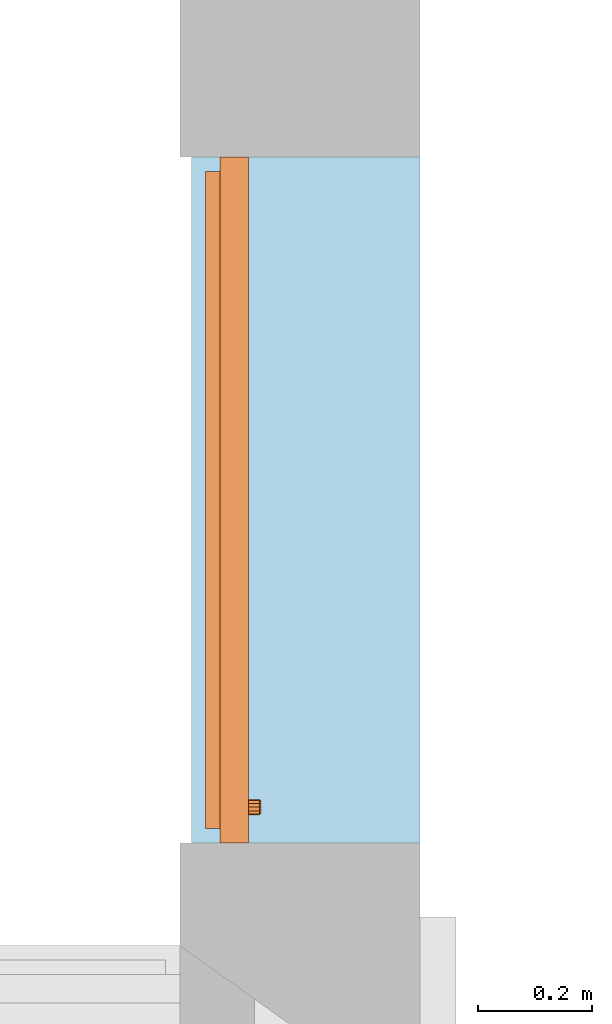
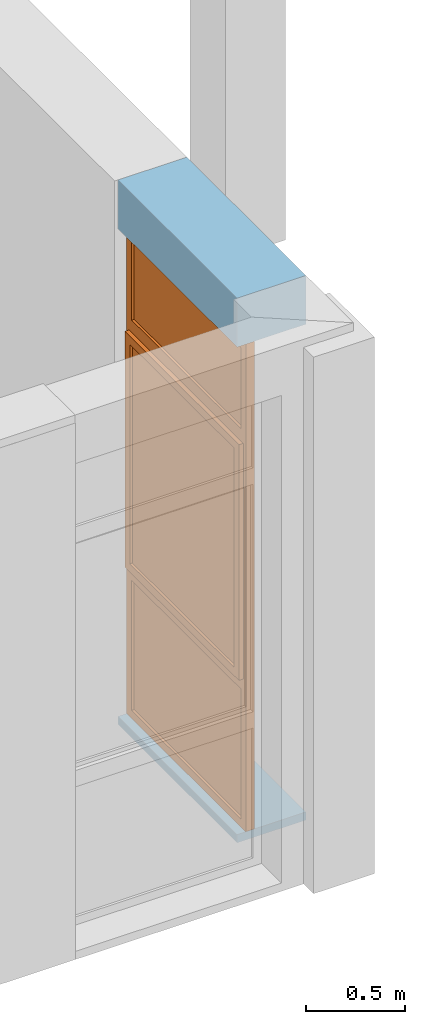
# One storey, part 10 of 11: 1 proxy, 1 opening, plus 1 element that does not belong to this part.
"""IFC2X3 building model written with IfcOpenShell, lengths in millimetres."""

from ifc_helpers import new_model, entity, si_unit, converted_unit, derived_unit, money_unit, direction, frame, origin_with_axes, origin_2d_with_axis, place, context, subcontext, project, spatial, polyline, rectangle, outline, extrude, open_shell, faceted_brep, surface_model, material, layer, layer_set, layer_usage, type_object, element, fill, save


model = new_model("IFC2X3")

# Units and contexts
model_context = context("Model", 3, precision=0.01, world=origin_with_axes(), true_north=direction((0.0, 1.0)))
body_context = subcontext(model_context, "Body", "Model", "MODEL_VIEW")
ifc_project = project(units=[si_unit("LENGTHUNIT", "METRE", prefix="MILLI"), si_unit("AREAUNIT", "SQUARE_METRE"), si_unit("VOLUMEUNIT", "CUBIC_METRE"), converted_unit("PLANEANGLEUNIT", "DEGREE", entity("IfcPlaneAngleMeasure", 0.0174532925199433), si_unit("PLANEANGLEUNIT", "RADIAN"), dimensions=[0, 0, 0, 0, 0, 0, 0]), money_unit("USD"), converted_unit("TIMEUNIT", "Year", entity("IfcTimeMeasure", 31557600.0), si_unit("TIMEUNIT", "SECOND"), dimensions=[0, 0, 1, 0, 0, 0, 0]), si_unit("MASSUNIT", "GRAM", prefix="KILO"), si_unit("THERMODYNAMICTEMPERATUREUNIT", "DEGREE_CELSIUS"), si_unit("LUMINOUSINTENSITYUNIT", "LUMEN"), si_unit("ENERGYUNIT", "JOULE", prefix="MEGA"), derived_unit("THERMALCONDUCTANCEUNIT", [(si_unit("POWERUNIT", "WATT"), 1), (si_unit("LENGTHUNIT", "METRE"), -1), (si_unit("THERMODYNAMICTEMPERATUREUNIT", "KELVIN"), -1)]), derived_unit("SPECIFICHEATCAPACITYUNIT", [(si_unit("ENERGYUNIT", "JOULE"), 1), (si_unit("MASSUNIT", "GRAM", prefix="KILO"), -1), (si_unit("THERMODYNAMICTEMPERATUREUNIT", "KELVIN"), -1)]), derived_unit("MASSDENSITYUNIT", [(si_unit("MASSUNIT", "GRAM", prefix="KILO"), 1), (si_unit("VOLUMEUNIT", "CUBIC_METRE"), -1)])], contexts=[model_context])

# Site, building, storey
site_placement = place(None, origin_with_axes())
site = spatial("IfcSite", under=ifc_project, at=site_placement, Name="Sitio", CompositionType="ELEMENT")
building_placement = place(site_placement, origin_with_axes())
building = spatial("IfcBuilding", under=site, at=building_placement, Name="Construcción", CompositionType="ELEMENT")
storey_placement = place(building_placement, frame((0.0, 0.0, -3650.0), z_axis=(0.0, 0.0, 1.0), x_axis=(1.0, 0.0, 0.0)))
storey = spatial("IfcBuildingStorey", under=building, at=storey_placement, Name="-1. Piso", CompositionType="ELEMENT", Elevation=-3650.0)

# Wall, opening, proxy
ifc_material_1 = material(Name="ARQ_AM246_Arrebossat_De_Guix")
ifc_layer_1 = layer(ifc_material_1, 10.0, ventilated="UNKNOWN")
ifc_material_2 = material(Name="ARQ_CE217_Gero")
ifc_layer_2 = layer(ifc_material_2, 150.0, ventilated="UNKNOWN")
ifc_material_3 = material(Name="ARQ_AI031_Aillament_Poliestireno expandido EPS")
ifc_layer_3 = layer(ifc_material_3, 150.0, ventilated="UNKNOWN")
ifc_material_4 = material(Name="ARQ_CE218_Ceramic")
ifc_layer_4 = layer(ifc_material_4, 80.0, ventilated="UNKNOWN")
ifc_layer_5 = layer(ifc_material_1, 10.0, ventilated="UNKNOWN")
ifc_layer_set = layer_set([ifc_layer_1, ifc_layer_2, ifc_layer_3, ifc_layer_4, ifc_layer_5], Name="façana pati CR1 (ampit)")
ifc_layer_usage = layer_usage(ifc_layer_set, "AXIS2", "POSITIVE", -400.0)
wall_type = type_object("IfcWallType", Name="façana pati CR1 (ampit) 400", PredefinedType="NOTDEFINED")
wall_placement = place(storey_placement, frame((-1681.109004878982, -10658.9758237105, 0.0), z_axis=(0.0, 0.0, 1.0), x_axis=(0.0, -1.0, 0.0)))
wall = element("IfcWallStandardCase", 1, at=wall_placement, inside=storey, type_object=wall_type, material=ifc_layer_usage, Name="MS-199", context=body_context, shape_type="SweptSolid", body=[
    extrude(outline(polyline([(0.0, -399.9999999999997), (1199.999999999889, -400.0000000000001), (1199.999999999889, 0.0), (0.0, 0.0), (0.0, -399.9999999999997)])), origin_with_axes(), (0.0, 0.0, 1.0), 3350.0),
])
opening_placement = place(wall_placement, frame((599.9999999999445, 0.0, 49.99999999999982), z_axis=(0.0, 0.0, 1.0), x_axis=(1.0, 0.0, 0.0)))
opening = element("IfcOpeningElement", 2, at=opening_placement, cuts=wall, Name="V - 008", context=body_context, shape_type="SweptSolid", body=[
    extrude(rectangle(XDim=1199.999999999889, YDim=3000.0, at=origin_2d_with_axis()), frame((0.0, -350.0000000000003, 1500.0), z_axis=(0.0, -1.0, 0.0), x_axis=(-1.0, 0.0, 0.0)), (0.0, 0.0, -1.0), 750.0),
    extrude(rectangle(XDim=1199.999999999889, YDim=3000.0, at=origin_2d_with_axis()), frame((0.0, -350.0000000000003, 1500.0), z_axis=(0.0, 1.0, 0.0), x_axis=(-1.0, 0.0, 0.0)), (0.0, 0.0, -1.0), 450.0),
])
building_element_proxy_type = type_object("IfcBuildingElementProxyType", Name="Ventana Vertical Multi-Faja 27", PredefinedType="NOTDEFINED")
proxy_placement = place(opening_placement, frame((599.9999999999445, 0.0, 0.0), z_axis=(0.0, 0.0, 1.0), x_axis=(-1.0, 0.0, 0.0)))
proxy = element("IfcBuildingElementProxy", 3, at=proxy_placement, inside=storey, type_object=building_element_proxy_type, Name="V - 008", context=body_context, shape_type="SurfaceModel", body=[
    faceted_brep([(25.00000000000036, 350.0000000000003, 925.0000000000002), (49.99999999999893, 350.0000000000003, 925.0000000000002), (49.99999999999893, 350.0000000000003, 850.0000000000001), (49.99999999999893, 350.0000000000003, 50.00000000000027), (0.0, 350.0000000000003, 50.00000000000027), (0.0, 349.9999999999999, 2950.0), (49.99999999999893, 349.9999999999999, 2950.0), (49.99999999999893, 349.9999999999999, 2450.0), (49.99999999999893, 349.9999999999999, 2375.0), (25.00000000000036, 349.9999999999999, 2375.0), (25.00000000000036, 325.0000000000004, 925.0000000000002), (49.99999999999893, 325.0000000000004, 925.0000000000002), (49.99999999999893, 325.0000000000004, 950.0000000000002), (49.99999999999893, 300.0000000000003, 950.0000000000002), (49.99999999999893, 300.0000000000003, 850.0000000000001), (49.99999999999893, 300.0000000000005, 50.00000000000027), (0.0, 300.0000000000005, 50.00000000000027), (0.0, 300.0000000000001, 2950.0), (49.99999999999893, 300.0000000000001, 2950.0), (49.99999999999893, 300.0000000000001, 2450.0), (49.99999999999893, 324.9999999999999, 2375.0), (49.99999999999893, 300.0000000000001, 2350.0), (49.99999999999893, 324.9999999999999, 2350.0), (25.00000000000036, 324.9999999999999, 2375.0)], [[[0, 1, 2, 3, 4, 5, 6, 7, 8, 9]], [[0, 10, 11, 1]], [[11, 12, 13, 14, 2, 1]], [[3, 2, 14, 15]], [[4, 3, 15, 16]], [[5, 4, 16, 17]], [[6, 5, 17, 18]], [[7, 6, 18, 19]], [[20, 8, 7, 19, 21, 22]], [[20, 23, 9, 8]], [[9, 23, 10, 0]], [[22, 12, 11, 10, 23, 20]], [[22, 21, 13, 12]], [[17, 16, 15, 14, 13, 21, 19, 18]]]),
    faceted_brep([(1174.999999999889, 349.9999999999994, 925.0000000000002), (1174.999999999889, 349.9999999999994, 2375.0), (1149.99999999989, 349.9999999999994, 2375.0), (1149.99999999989, 349.9999999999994, 2450.0), (1149.99999999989, 349.999999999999, 2950.0), (1199.999999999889, 349.999999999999, 2950.0), (1199.999999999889, 349.9999999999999, 50.00000000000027), (1149.99999999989, 349.9999999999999, 50.00000000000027), (1149.99999999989, 349.9999999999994, 850.0000000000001), (1149.99999999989, 349.9999999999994, 925.0000000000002), (1174.999999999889, 324.9999999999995, 925.0000000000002), (1174.999999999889, 324.9999999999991, 2375.0), (1149.99999999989, 324.9999999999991, 2375.0), (1149.99999999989, 324.9999999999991, 2350.0), (1149.99999999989, 299.9999999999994, 2350.0), (1149.99999999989, 299.9999999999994, 2450.0), (1149.99999999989, 299.9999999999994, 2950.0), (1199.999999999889, 299.9999999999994, 2950.0), (1199.999999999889, 299.9999999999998, 50.00000000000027), (1149.99999999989, 299.9999999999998, 50.00000000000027), (1149.99999999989, 299.9999999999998, 850.0000000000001), (1149.99999999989, 324.9999999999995, 925.0000000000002), (1149.99999999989, 299.9999999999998, 950.0000000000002), (1149.99999999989, 324.9999999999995, 950.0000000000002)], [[[0, 1, 2, 3, 4, 5, 6, 7, 8, 9]], [[0, 10, 11, 1]], [[1, 11, 12, 2]], [[12, 13, 14, 15, 3, 2]], [[4, 3, 15, 16]], [[5, 4, 16, 17]], [[6, 5, 17, 18]], [[7, 6, 18, 19]], [[8, 7, 19, 20]], [[21, 9, 8, 20, 22, 23]], [[9, 21, 10, 0]], [[12, 11, 10, 21, 23, 13]], [[23, 22, 14, 13]], [[14, 22, 20, 19, 18, 17, 16, 15]]]),
    faceted_brep([(49.99999999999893, 325.0000000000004, 950.0000000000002), (49.99999999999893, 300.0000000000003, 950.0000000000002), (1149.99999999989, 299.9999999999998, 950.0000000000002), (1149.99999999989, 324.9999999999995, 950.0000000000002), (49.99999999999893, 325.0000000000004, 925.0000000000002), (49.99999999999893, 350.0000000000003, 925.0000000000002), (49.99999999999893, 350.0000000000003, 850.0000000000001), (49.99999999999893, 300.0000000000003, 850.0000000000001), (1149.99999999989, 299.9999999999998, 850.0000000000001), (1149.99999999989, 324.9999999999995, 925.0000000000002), (1149.99999999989, 349.9999999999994, 850.0000000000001), (1149.99999999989, 349.9999999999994, 925.0000000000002)], [[[0, 1, 2, 3]], [[4, 5, 6, 7, 1, 0]], [[1, 7, 8, 2]], [[9, 3, 2, 8, 10, 11]], [[9, 4, 0, 3]], [[5, 4, 9, 11]], [[11, 10, 6, 5]], [[6, 10, 8, 7]]]),
    faceted_brep([(49.99999999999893, 349.9999999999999, 2375.0), (49.99999999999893, 349.9999999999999, 2450.0), (1149.99999999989, 349.9999999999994, 2450.0), (1149.99999999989, 349.9999999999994, 2375.0), (49.99999999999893, 324.9999999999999, 2375.0), (49.99999999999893, 324.9999999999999, 2350.0), (49.99999999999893, 300.0000000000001, 2350.0), (49.99999999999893, 300.0000000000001, 2450.0), (1149.99999999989, 299.9999999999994, 2450.0), (1149.99999999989, 324.9999999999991, 2375.0), (1149.99999999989, 299.9999999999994, 2350.0), (1149.99999999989, 324.9999999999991, 2350.0)], [[[0, 1, 2, 3]], [[4, 5, 6, 7, 1, 0]], [[2, 1, 7, 8]], [[9, 3, 2, 8, 10, 11]], [[9, 4, 0, 3]], [[11, 5, 4, 9]], [[11, 10, 6, 5]], [[7, 6, 10, 8]]]),
    faceted_brep([(1149.99999999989, 299.9999999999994, 2950.0), (1149.99999999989, 349.999999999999, 2950.0), (1199.999999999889, 349.999999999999, 2950.0), (1199.999999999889, 299.9999999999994, 2950.0), (49.99999999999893, 300.0000000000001, 2950.0), (49.99999999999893, 349.9999999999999, 2950.0), (0.0, 349.9999999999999, 2950.0), (0.0, 349.9999999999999, 3000.0), (1199.999999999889, 349.999999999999, 3000.0), (1199.999999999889, 299.9999999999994, 3000.0), (0.0, 300.0000000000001, 3000.0), (0.0, 300.0000000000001, 2950.0)], [[[0, 1, 2, 3]], [[4, 5, 1, 0]], [[1, 5, 6, 7, 8, 2]], [[3, 2, 8, 9]], [[0, 3, 9, 10, 11, 4]], [[11, 6, 5, 4]], [[10, 7, 6, 11]], [[9, 8, 7, 10]]]),
    faceted_brep([(49.99999999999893, 300.0000000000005, 49.99999999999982), (49.99999999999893, 350.0000000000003, 49.99999999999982), (0.0, 350.0000000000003, 49.99999999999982), (0.0, 300.0000000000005, 49.99999999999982), (1149.99999999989, 299.9999999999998, 49.99999999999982), (1149.99999999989, 349.9999999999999, 49.99999999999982), (1199.999999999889, 349.9999999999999, 49.99999999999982), (1199.999999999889, 349.9999999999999, 0.0), (0.0, 350.0000000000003, 0.0), (0.0, 300.0000000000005, 0.0), (1199.999999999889, 299.9999999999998, 0.0), (1199.999999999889, 299.9999999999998, 49.99999999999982)], [[[0, 1, 2, 3]], [[4, 5, 1, 0]], [[1, 5, 6, 7, 8, 2]], [[3, 2, 8, 9]], [[0, 3, 9, 10, 11, 4]], [[11, 6, 5, 4]], [[10, 7, 6, 11]], [[9, 8, 7, 10]]]),
    surface_model("IfcShellBasedSurfaceModel", [(49.99999999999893, 315.0000000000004, 49.99999999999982), (1149.99999999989, 314.9999999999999, 49.99999999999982), (1149.99999999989, 314.9999999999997, 850.0000000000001), (49.99999999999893, 315.0000000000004, 850.0000000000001)], [open_shell([[[0, 1, 2, 3]]])]),
    surface_model("IfcShellBasedSurfaceModel", [(49.99999999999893, 335.0000000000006, 49.99999999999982), (49.99999999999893, 335.0000000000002, 850.0000000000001), (1149.99999999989, 334.9999999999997, 850.0000000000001), (1149.99999999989, 334.9999999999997, 49.99999999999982)], [open_shell([[[0, 1, 2, 3]]])]),
    faceted_brep([(78.50000000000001, 324.9999999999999, 1677.0), (77.16025403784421, 324.9999999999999, 1682.0), (77.16025403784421, 313.0000000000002, 1682.0), (78.50000000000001, 313.0000000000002, 1677.0), (78.50000000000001, 324.9999999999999, 1623.0), (77.16025403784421, 324.9999999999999, 1618.0), (73.49999999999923, 324.9999999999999, 1614.339745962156), (68.50000000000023, 324.9999999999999, 1613.0), (56.49999999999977, 325.0000000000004, 1613.0), (51.49999999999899, 325.0000000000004, 1614.339745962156), (47.83974596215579, 325.0000000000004, 1618.0), (46.49999999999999, 325.0000000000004, 1623.0), (46.49999999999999, 324.9999999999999, 1677.0), (47.83974596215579, 324.9999999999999, 1682.0), (51.49999999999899, 324.9999999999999, 1685.660254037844), (56.49999999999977, 324.9999999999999, 1687.0), (68.50000000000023, 324.9999999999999, 1687.0), (73.49999999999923, 324.9999999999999, 1685.660254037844), (73.49999999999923, 313.0000000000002, 1685.660254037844), (68.50000000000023, 313.0000000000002, 1687.0), (56.49999999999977, 313.0000000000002, 1687.0), (51.49999999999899, 313.0000000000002, 1685.660254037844), (47.83974596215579, 313.0000000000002, 1682.0), (46.49999999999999, 313.0000000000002, 1677.0), (46.49999999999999, 313.0000000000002, 1623.0), (47.83974596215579, 313.0000000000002, 1618.0), (51.49999999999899, 313.0000000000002, 1614.339745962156), (56.49999999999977, 313.0000000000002, 1613.0), (68.50000000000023, 313.0000000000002, 1613.0), (73.49999999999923, 313.0000000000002, 1614.339745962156), (77.16025403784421, 313.0000000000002, 1618.0), (78.50000000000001, 313.0000000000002, 1623.0)], [[[0, 1, 2, 3]], [[0, 4, 5, 6, 7, 8, 9, 10, 11, 12, 13, 14, 15, 16, 17, 1]], [[1, 17, 18, 2]], [[3, 2, 18, 19, 20, 21, 22, 23, 24, 25, 26, 27, 28, 29, 30, 31]], [[4, 0, 3, 31]], [[5, 4, 31, 30]], [[6, 5, 30, 29]], [[7, 6, 29, 28]], [[8, 7, 28, 27]], [[9, 8, 27, 26]], [[10, 9, 26, 25]], [[11, 10, 25, 24]], [[12, 11, 24, 23]], [[13, 12, 23, 22]], [[14, 13, 22, 21]], [[15, 14, 21, 20]], [[16, 15, 20, 19]], [[17, 16, 19, 18]]]),
    faceted_brep([(62.5, 313.0000000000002, 1663.5), (55.74999999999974, 313.0000000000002, 1661.69134295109), (55.74999999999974, 289.0000000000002, 1661.69134295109), (62.5, 289.0000000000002, 1663.5), (69.25000000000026, 313.0000000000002, 1661.69134295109), (74.19134295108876, 313.0000000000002, 1656.75), (76.00000000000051, 313.0000000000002, 1650.0), (74.19134295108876, 313.0000000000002, 1643.25), (69.25000000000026, 313.0000000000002, 1638.30865704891), (62.5, 313.0000000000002, 1636.5), (55.74999999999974, 313.0000000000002, 1638.30865704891), (50.80865704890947, 313.0000000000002, 1643.25), (48.99999999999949, 313.0000000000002, 1650.0), (50.80865704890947, 313.0000000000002, 1656.75), (50.80865704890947, 289.0000000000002, 1656.75), (48.99999999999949, 289.0000000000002, 1650.0), (50.80865704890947, 289.0000000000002, 1643.25), (55.74999999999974, 289.0000000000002, 1638.30865704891), (62.5, 289.0000000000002, 1636.5), (69.25000000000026, 289.0000000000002, 1638.30865704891), (74.19134295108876, 289.0000000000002, 1643.25), (76.00000000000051, 289.0000000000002, 1650.0), (74.19134295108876, 289.0000000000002, 1656.75), (69.25000000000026, 289.0000000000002, 1661.69134295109)], [[[0, 1, 2, 3]], [[0, 4, 5, 6, 7, 8, 9, 10, 11, 12, 13, 1]], [[1, 13, 14, 2]], [[3, 2, 14, 15, 16, 17, 18, 19, 20, 21, 22, 23]], [[4, 0, 3, 23]], [[5, 4, 23, 22]], [[6, 5, 22, 21]], [[7, 6, 21, 20]], [[8, 7, 20, 19]], [[9, 8, 19, 18]], [[10, 9, 18, 17]], [[11, 10, 17, 16]], [[12, 11, 16, 15]], [[13, 12, 15, 14]]]),
    faceted_brep([(73.99999999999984, 289.0000000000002, 1543.0), (62.5, 289.0000000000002, 1540.0), (51.00000000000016, 289.0000000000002, 1543.0), (48.99999999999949, 289.0000000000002, 1546.0), (48.99999999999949, 289.0000000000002, 1650.0), (50.80865704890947, 289.0000000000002, 1656.75), (55.74999999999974, 289.0000000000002, 1661.69134295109), (62.5, 289.0000000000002, 1663.5), (69.25000000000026, 289.0000000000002, 1661.69134295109), (74.19134295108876, 289.0000000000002, 1656.75), (76.00000000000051, 289.0000000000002, 1650.0), (76.00000000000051, 289.0000000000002, 1546.0), (74.00000006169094, 281.0000000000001, 1543.000000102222), (62.5000000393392, 281.0000000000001, 1539.999999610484), (51.00000001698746, 281.0000000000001, 1543.000000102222), (48.99999968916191, 281.0000000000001, 1545.999999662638), (48.99999968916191, 281.0000000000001, 1649.99999994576), (50.80865700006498, 281.0000000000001, 1656.749999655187), (55.75000032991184, 281.0000000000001, 1661.691342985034), (62.5000000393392, 281.0000000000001, 1663.500000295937), (69.24999974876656, 281.0000000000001, 1661.691342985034), (74.19134307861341, 281.0000000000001, 1656.749999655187), (76.00000038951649, 281.0000000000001, 1649.99999994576), (76.00000038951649, 281.0000000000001, 1545.999999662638), (72.13746253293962, 278.0000004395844, 1545.61451963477), (62.5000000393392, 278.0000004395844, 1543.100398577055), (52.86253754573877, 278.0000004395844, 1545.61451963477), (51.99999924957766, 278.0000004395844, 1546.908326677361), (51.99999924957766, 278.0000004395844, 1649.605042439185), (53.49838296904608, 278.0000004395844, 1655.197085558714), (57.30291442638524, 278.0000004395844, 1659.001617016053), (62.5000000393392, 278.0000004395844, 1660.394172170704), (67.69708565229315, 278.0000004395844, 1659.001617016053), (71.50161710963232, 278.0000004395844, 1655.197085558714), (73.00000082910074, 278.0000004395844, 1649.605042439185), (73.00000082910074, 278.0000004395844, 1546.908326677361)], [[[0, 1, 2, 3, 4, 5, 6, 7, 8, 9, 10, 11]], [[1, 0, 12, 13]], [[2, 1, 13, 14]], [[3, 2, 14, 15]], [[4, 3, 15, 16]], [[5, 4, 16, 17]], [[6, 5, 17, 18]], [[7, 6, 18, 19]], [[8, 7, 19, 20]], [[9, 8, 20, 21]], [[10, 9, 21, 22]], [[11, 10, 22, 23]], [[0, 11, 23, 12]], [[13, 12, 24, 25]], [[14, 13, 25, 26]], [[15, 14, 26, 27]], [[16, 15, 27, 28]], [[17, 16, 28, 29]], [[18, 17, 29, 30]], [[19, 18, 30, 31]], [[20, 19, 31, 32]], [[21, 20, 32, 33]], [[22, 21, 33, 34]], [[23, 22, 34, 35]], [[12, 23, 35, 24]], [[26, 25, 24, 35, 34, 33, 32, 31, 30, 29, 28, 27]]]),
    faceted_brep([(74.99999999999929, 324.9999999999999, 2325.0), (74.99999999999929, 375.0000000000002, 2325.0), (25.00000000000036, 375.0000000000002, 2325.0), (25.00000000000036, 324.9999999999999, 2325.0), (74.99999999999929, 325.0000000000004, 975.0000000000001), (74.99999999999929, 375.0000000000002, 975.0000000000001), (25.00000000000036, 375.0000000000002, 975.0000000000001), (25.00000000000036, 325.0000000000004, 975.0000000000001)], [[[0, 1, 2, 3]], [[4, 5, 1, 0]], [[1, 5, 6, 2]], [[3, 2, 6, 7]], [[0, 3, 7, 4]], [[7, 6, 5, 4]]]),
    faceted_brep([(1124.99999999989, 324.9999999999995, 975.0000000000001), (1124.99999999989, 374.9999999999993, 975.0000000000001), (1174.999999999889, 374.9999999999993, 975.0000000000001), (1174.999999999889, 324.9999999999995, 975.0000000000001), (1124.99999999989, 324.9999999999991, 2325.0), (1124.99999999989, 374.9999999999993, 2325.0), (1174.999999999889, 374.9999999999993, 2325.0), (1174.999999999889, 324.9999999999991, 2325.0)], [[[0, 1, 2, 3]], [[4, 5, 1, 0]], [[1, 5, 6, 2]], [[3, 2, 6, 7]], [[0, 3, 7, 4]], [[7, 6, 5, 4]]]),
    faceted_brep([(1174.999999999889, 324.9999999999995, 925.0000000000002), (1174.999999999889, 374.9999999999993, 925.0000000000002), (1174.999999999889, 374.9999999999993, 975.0000000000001), (1174.999999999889, 324.9999999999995, 975.0000000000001), (25.00000000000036, 325.0000000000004, 925.0000000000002), (25.00000000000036, 375.0000000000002, 925.0000000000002), (25.00000000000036, 375.0000000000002, 975.0000000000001), (74.99999999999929, 375.0000000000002, 975.0000000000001), (1124.99999999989, 374.9999999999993, 975.0000000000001), (1124.99999999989, 324.9999999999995, 975.0000000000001), (74.99999999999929, 325.0000000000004, 975.0000000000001), (25.00000000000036, 325.0000000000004, 975.0000000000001)], [[[0, 1, 2, 3]], [[4, 5, 1, 0]], [[1, 5, 6, 7, 8, 2]], [[3, 2, 8, 9]], [[0, 3, 9, 10, 11, 4]], [[11, 6, 5, 4]], [[10, 7, 6, 11]], [[9, 8, 7, 10]]]),
    faceted_brep([(25.00000000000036, 324.9999999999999, 2375.0), (25.00000000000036, 375.0000000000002, 2375.0), (25.00000000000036, 375.0000000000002, 2325.0), (25.00000000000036, 324.9999999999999, 2325.0), (1174.999999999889, 324.9999999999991, 2375.0), (1174.999999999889, 374.9999999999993, 2375.0), (1174.999999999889, 374.9999999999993, 2325.0), (1124.99999999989, 374.9999999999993, 2325.0), (74.99999999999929, 375.0000000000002, 2325.0), (74.99999999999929, 324.9999999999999, 2325.0), (1124.99999999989, 324.9999999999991, 2325.0), (1174.999999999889, 324.9999999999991, 2325.0)], [[[0, 1, 2, 3]], [[4, 5, 1, 0]], [[1, 5, 6, 7, 8, 2]], [[3, 2, 8, 9]], [[0, 3, 9, 10, 11, 4]], [[11, 6, 5, 4]], [[10, 7, 6, 11]], [[9, 8, 7, 10]]]),
    surface_model("IfcShellBasedSurfaceModel", [(74.99999999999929, 340.0000000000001, 975.0000000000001), (1124.99999999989, 339.9999999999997, 975.0000000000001), (1124.99999999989, 339.9999999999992, 2325.0), (74.99999999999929, 340.0000000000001, 2325.0)], [open_shell([[[0, 1, 2, 3]]])]),
    surface_model("IfcShellBasedSurfaceModel", [(74.99999999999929, 360.0000000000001, 975.0000000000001), (74.99999999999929, 360.0000000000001, 2325.0), (1124.99999999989, 359.9999999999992, 2325.0), (1124.99999999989, 359.9999999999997, 975.0000000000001)], [open_shell([[[0, 1, 2, 3]]])]),
    surface_model("IfcShellBasedSurfaceModel", [(49.99999999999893, 314.9999999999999, 2450.0), (1149.99999999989, 314.9999999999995, 2450.0), (1149.99999999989, 314.9999999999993, 2950.0), (49.99999999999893, 314.9999999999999, 2950.0)], [open_shell([[[0, 1, 2, 3]]])]),
    surface_model("IfcShellBasedSurfaceModel", [(49.99999999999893, 335.0000000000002, 2450.0), (49.99999999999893, 334.9999999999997, 2950.0), (1149.99999999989, 334.9999999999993, 2950.0), (1149.99999999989, 334.9999999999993, 2450.0)], [open_shell([[[0, 1, 2, 3]]])]),
])
fill(opening, proxy)

save(model, "model.ifc")
